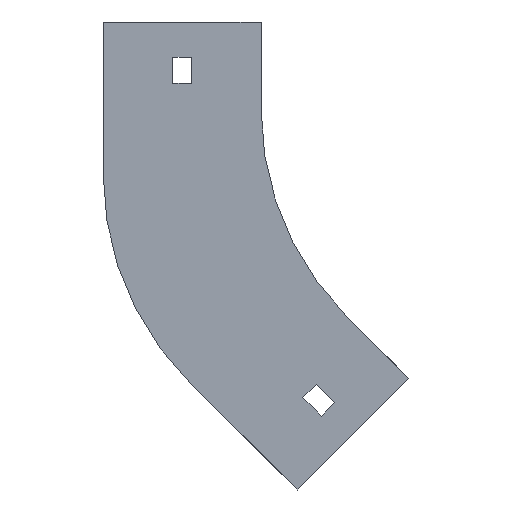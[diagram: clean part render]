
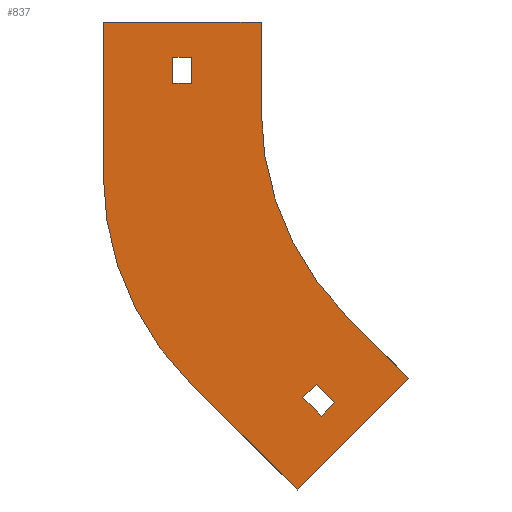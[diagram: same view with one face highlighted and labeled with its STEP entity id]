
A CAD part, front view. The second image highlights one B-rep face of the part: STEP entity #837.
In plain terms, the highlighted planar face has unit normal (0, -1, 0).
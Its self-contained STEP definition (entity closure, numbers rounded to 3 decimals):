
#7 = DIRECTION ( 'NONE',  ( -0.707, 0., 0.707 ) ) ;
#13 = LINE ( 'NONE', #1342, #538 ) ;
#14 = DIRECTION ( 'NONE',  ( 0.707, 0., 0.707 ) ) ;
#20 = DIRECTION ( 'NONE',  ( -0.707, 0., 0.707 ) ) ;
#23 = ORIENTED_EDGE ( 'NONE', *, *, #470, .F. ) ;
#32 = CARTESIAN_POINT ( 'NONE',  ( -79.373, 0., -104.829 ) ) ;
#36 = ORIENTED_EDGE ( 'NONE', *, *, #706, .F. ) ;
#43 = DIRECTION ( 'NONE',  ( 0., -1., 0. ) ) ;
#47 = DIRECTION ( 'NONE',  ( 0.707, 0., -0.707 ) ) ;
#50 = VERTEX_POINT ( 'NONE', #346 ) ;
#52 = VERTEX_POINT ( 'NONE', #1232 ) ;
#66 = ORIENTED_EDGE ( 'NONE', *, *, #540, .F. ) ;
#72 = LINE ( 'NONE', #1064, #276 ) ;
#82 = VECTOR ( 'NONE', #301, 1000. ) ;
#99 = LINE ( 'NONE', #528, #1070 ) ;
#110 = DIRECTION ( 'NONE',  ( 1., 0., 0. ) ) ;
#139 = DIRECTION ( 'NONE',  ( 0., 1., 0. ) ) ;
#143 = PLANE ( 'NONE',  #1306 ) ;
#157 = CARTESIAN_POINT ( 'NONE',  ( 0., 0., 0. ) ) ;
#169 = EDGE_LOOP ( 'NONE', ( #337, #693, #1272, #943 ) ) ;
#178 = EDGE_CURVE ( 'NONE', #604, #617, #669, .T. ) ;
#191 = EDGE_CURVE ( 'NONE', #1321, #266, #1134, .T. ) ;
#196 = ORIENTED_EDGE ( 'NONE', *, *, #1256, .F. ) ;
#204 = ORIENTED_EDGE ( 'NONE', *, *, #191, .F. ) ;
#223 = DIRECTION ( 'NONE',  ( 0., 0., 1. ) ) ;
#233 = VECTOR ( 'NONE', #718, 1000. ) ;
#243 = CARTESIAN_POINT ( 'NONE',  ( -123.75, 0., 9. ) ) ;
#261 = CARTESIAN_POINT ( 'NONE',  ( -154., 0., -22.368 ) ) ;
#262 = FACE_BOUND ( 'NONE', #1314, .T. ) ;
#266 = VERTEX_POINT ( 'NONE', #764 ) ;
#274 = CARTESIAN_POINT ( 'NONE',  ( -130.25, 0., 9. ) ) ;
#276 = VECTOR ( 'NONE', #948, 1000. ) ;
#301 = DIRECTION ( 'NONE',  ( -1., 0., 0. ) ) ;
#318 = CIRCLE ( 'NONE', #784, 100. ) ;
#329 = VERTEX_POINT ( 'NONE', #1217 ) ;
#337 = ORIENTED_EDGE ( 'NONE', *, *, #951, .T. ) ;
#340 = VECTOR ( 'NONE', #347, 1000. ) ;
#346 = CARTESIAN_POINT ( 'NONE',  ( -74.777, 0., -100.232 ) ) ;
#347 = DIRECTION ( 'NONE',  ( 0., 0., -1. ) ) ;
#356 = DIRECTION ( 'NONE',  ( 1., 0., 0. ) ) ;
#365 = VERTEX_POINT ( 'NONE', #659 ) ;
#371 = CARTESIAN_POINT ( 'NONE',  ( -154., 0., 30. ) ) ;
#378 = CARTESIAN_POINT ( 'NONE',  ( -85.737, 0., -98.465 ) ) ;
#380 = DIRECTION ( 'NONE',  ( 0., -1., 0. ) ) ;
#400 = VECTOR ( 'NONE', #1260, 1000. ) ;
#419 = ORIENTED_EDGE ( 'NONE', *, *, #756, .F. ) ;
#424 = VECTOR ( 'NONE', #110, 1000. ) ;
#442 = EDGE_CURVE ( 'NONE', #1340, #1321, #758, .T. ) ;
#458 = VECTOR ( 'NONE', #20, 1000. ) ;
#470 = EDGE_CURVE ( 'NONE', #617, #1340, #318, .T. ) ;
#472 = VERTEX_POINT ( 'NONE', #750 ) ;
#503 = EDGE_CURVE ( 'NONE', #266, #365, #694, .T. ) ;
#511 = LINE ( 'NONE', #378, #1162 ) ;
#521 = VERTEX_POINT ( 'NONE', #1332 ) ;
#528 = CARTESIAN_POINT ( 'NONE',  ( -81.141, 0., -93.868 ) ) ;
#538 = VECTOR ( 'NONE', #1254, 1000. ) ;
#540 = EDGE_CURVE ( 'NONE', #472, #50, #1027, .T. ) ;
#604 = VERTEX_POINT ( 'NONE', #729 ) ;
#612 = LINE ( 'NONE', #969, #82 ) ;
#617 = VERTEX_POINT ( 'NONE', #1374 ) ;
#648 = CARTESIAN_POINT ( 'NONE',  ( -49.497, 0., -91.924 ) ) ;
#659 = CARTESIAN_POINT ( 'NONE',  ( -100., 0., 0. ) ) ;
#669 = LINE ( 'NONE', #805, #458 ) ;
#689 = CARTESIAN_POINT ( 'NONE',  ( -49.497, 0., -91.924 ) ) ;
#692 = EDGE_LOOP ( 'NONE', ( #204, #1137, #23, #794, #1063, #708, #1399, #950 ) ) ;
#693 = ORIENTED_EDGE ( 'NONE', *, *, #1224, .T. ) ;
#694 = LINE ( 'NONE', #1252, #340 ) ;
#702 = VERTEX_POINT ( 'NONE', #991 ) ;
#705 = DIRECTION ( 'NONE',  ( 0., 0., -1. ) ) ;
#706 = EDGE_CURVE ( 'NONE', #50, #1182, #99, .T. ) ;
#708 = ORIENTED_EDGE ( 'NONE', *, *, #993, .F. ) ;
#718 = DIRECTION ( 'NONE',  ( 0., 0., 1. ) ) ;
#719 = AXIS2_PLACEMENT_3D ( 'NONE', #157, #380, #1249 ) ;
#729 = CARTESIAN_POINT ( 'NONE',  ( -87.681, 0., -130.108 ) ) ;
#741 = EDGE_CURVE ( 'NONE', #983, #702, #1114, .T. ) ;
#750 = CARTESIAN_POINT ( 'NONE',  ( -79.373, 0., -104.829 ) ) ;
#756 = EDGE_CURVE ( 'NONE', #778, #472, #511, .T. ) ;
#758 = LINE ( 'NONE', #773, #1283 ) ;
#764 = CARTESIAN_POINT ( 'NONE',  ( -100., 0., 30. ) ) ;
#773 = CARTESIAN_POINT ( 'NONE',  ( -154., 0., -22.368 ) ) ;
#778 = VERTEX_POINT ( 'NONE', #1341 ) ;
#784 = AXIS2_PLACEMENT_3D ( 'NONE', #789, #139, #1087 ) ;
#789 = CARTESIAN_POINT ( 'NONE',  ( -54., 0., -22.368 ) ) ;
#794 = ORIENTED_EDGE ( 'NONE', *, *, #178, .F. ) ;
#805 = CARTESIAN_POINT ( 'NONE',  ( -87.681, 0., -130.108 ) ) ;
#813 = VECTOR ( 'NONE', #1128, 1000. ) ;
#826 = LINE ( 'NONE', #274, #233 ) ;
#837 = ADVANCED_FACE ( 'NONE', ( #1144, #1136, #262 ), #143, .T. ) ;
#879 = CARTESIAN_POINT ( 'NONE',  ( -130.25, 0., 18. ) ) ;
#903 = EDGE_CURVE ( 'NONE', #365, #521, #1091, .T. ) ;
#908 = LINE ( 'NONE', #689, #400 ) ;
#943 = ORIENTED_EDGE ( 'NONE', *, *, #1072, .T. ) ;
#948 = DIRECTION ( 'NONE',  ( 0.707, 0., -0.707 ) ) ;
#950 = ORIENTED_EDGE ( 'NONE', *, *, #503, .F. ) ;
#951 = EDGE_CURVE ( 'NONE', #329, #52, #826, .T. ) ;
#969 = CARTESIAN_POINT ( 'NONE',  ( -130.25, 0., 9. ) ) ;
#983 = VERTEX_POINT ( 'NONE', #1074 ) ;
#991 = CARTESIAN_POINT ( 'NONE',  ( -123.75, 0., 9. ) ) ;
#993 = EDGE_CURVE ( 'NONE', #521, #1200, #72, .T. ) ;
#1027 = LINE ( 'NONE', #32, #1178 ) ;
#1063 = ORIENTED_EDGE ( 'NONE', *, *, #1376, .F. ) ;
#1064 = CARTESIAN_POINT ( 'NONE',  ( -70.711, 0., -70.711 ) ) ;
#1070 = VECTOR ( 'NONE', #7, 1000. ) ;
#1072 = EDGE_CURVE ( 'NONE', #702, #329, #612, .T. ) ;
#1074 = CARTESIAN_POINT ( 'NONE',  ( -123.75, 0., 18. ) ) ;
#1087 = DIRECTION ( 'NONE',  ( 0., 0., 1. ) ) ;
#1091 = CIRCLE ( 'NONE', #719, 100. ) ;
#1114 = LINE ( 'NONE', #243, #813 ) ;
#1128 = DIRECTION ( 'NONE',  ( 0., 0., -1. ) ) ;
#1134 = LINE ( 'NONE', #1337, #1389 ) ;
#1136 = FACE_OUTER_BOUND ( 'NONE', #692, .T. ) ;
#1137 = ORIENTED_EDGE ( 'NONE', *, *, #442, .F. ) ;
#1144 = FACE_BOUND ( 'NONE', #169, .T. ) ;
#1162 = VECTOR ( 'NONE', #47, 1000. ) ;
#1178 = VECTOR ( 'NONE', #14, 1000. ) ;
#1182 = VERTEX_POINT ( 'NONE', #1208 ) ;
#1200 = VERTEX_POINT ( 'NONE', #648 ) ;
#1208 = CARTESIAN_POINT ( 'NONE',  ( -81.141, 0., -93.868 ) ) ;
#1214 = LINE ( 'NONE', #879, #424 ) ;
#1217 = CARTESIAN_POINT ( 'NONE',  ( -130.25, 0., 9. ) ) ;
#1224 = EDGE_CURVE ( 'NONE', #52, #983, #1214, .T. ) ;
#1232 = CARTESIAN_POINT ( 'NONE',  ( -130.25, 0., 18. ) ) ;
#1249 = DIRECTION ( 'NONE',  ( 0., 0., -1. ) ) ;
#1252 = CARTESIAN_POINT ( 'NONE',  ( -100., 0., 30. ) ) ;
#1254 = DIRECTION ( 'NONE',  ( -0.707, 0., -0.707 ) ) ;
#1256 = EDGE_CURVE ( 'NONE', #1182, #778, #13, .T. ) ;
#1260 = DIRECTION ( 'NONE',  ( -0.707, 0., -0.707 ) ) ;
#1272 = ORIENTED_EDGE ( 'NONE', *, *, #741, .T. ) ;
#1283 = VECTOR ( 'NONE', #223, 1000. ) ;
#1306 = AXIS2_PLACEMENT_3D ( 'NONE', #1363, #43, #705 ) ;
#1314 = EDGE_LOOP ( 'NONE', ( #66, #419, #196, #36 ) ) ;
#1321 = VERTEX_POINT ( 'NONE', #371 ) ;
#1332 = CARTESIAN_POINT ( 'NONE',  ( -70.711, 0., -70.711 ) ) ;
#1337 = CARTESIAN_POINT ( 'NONE',  ( -154., 0., 30. ) ) ;
#1340 = VERTEX_POINT ( 'NONE', #261 ) ;
#1341 = CARTESIAN_POINT ( 'NONE',  ( -85.737, 0., -98.465 ) ) ;
#1342 = CARTESIAN_POINT ( 'NONE',  ( -85.737, 0., -98.465 ) ) ;
#1363 = CARTESIAN_POINT ( 'NONE',  ( 0., 0., 0. ) ) ;
#1374 = CARTESIAN_POINT ( 'NONE',  ( -124.711, 0., -93.078 ) ) ;
#1376 = EDGE_CURVE ( 'NONE', #1200, #604, #908, .T. ) ;
#1389 = VECTOR ( 'NONE', #356, 1000. ) ;
#1399 = ORIENTED_EDGE ( 'NONE', *, *, #903, .F. ) ;
